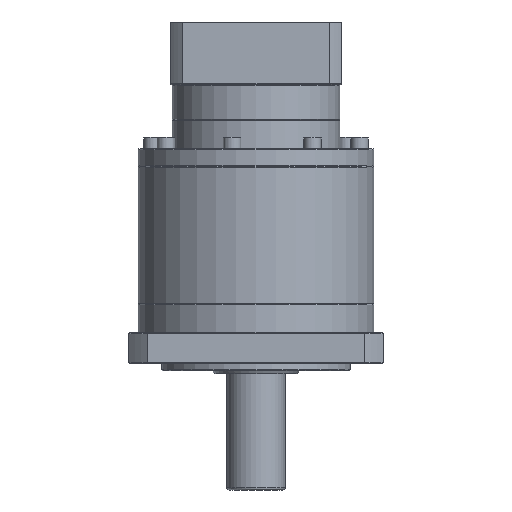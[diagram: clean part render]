
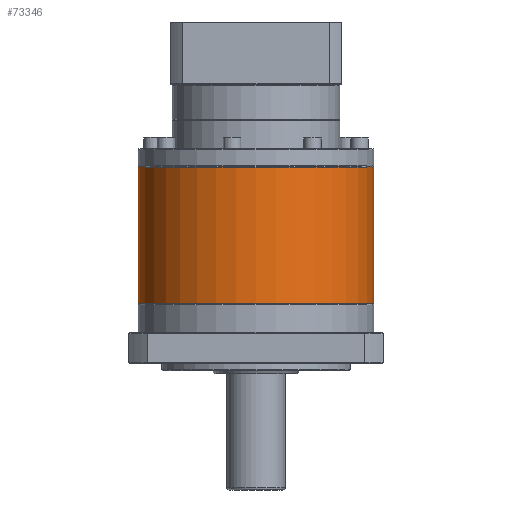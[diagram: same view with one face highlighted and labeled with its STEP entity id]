
A CAD part, front view. The second image highlights one B-rep face of the part: STEP entity #73346.
In plain terms, the highlighted cylindrical face has radius 81 mm (diameter 162 mm), a partial arc.
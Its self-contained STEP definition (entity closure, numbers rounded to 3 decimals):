
#2593 = EDGE_CURVE ( 'NONE', #17510, #5571, #34839, .T. ) ;
#5571 = VERTEX_POINT ( 'NONE', #86012 ) ;
#12732 = CARTESIAN_POINT ( 'NONE',  ( -36.886, 57.452, -88.94 ) ) ;
#12919 = VECTOR ( 'NONE', #52714, 1000. ) ;
#17510 = VERTEX_POINT ( 'NONE', #103160 ) ;
#18412 = ORIENTED_EDGE ( 'NONE', *, *, #48239, .T. ) ;
#22859 = ORIENTED_EDGE ( 'NONE', *, *, #38188, .F. ) ;
#28668 = VECTOR ( 'NONE', #33930, 1000. ) ;
#29323 = AXIS2_PLACEMENT_3D ( 'NONE', #78221, #53355, #101636 ) ;
#30748 = DIRECTION ( 'NONE',  ( -1., 0., 0. ) ) ;
#33930 = DIRECTION ( 'NONE',  ( 0., 0., -1. ) ) ;
#34285 = CARTESIAN_POINT ( 'NONE',  ( -36.886, 57.452, -88.44 ) ) ;
#34839 = LINE ( 'NONE', #36486, #12919 ) ;
#36486 = CARTESIAN_POINT ( 'NONE',  ( -198.886, 57.452, -88.44 ) ) ;
#36734 = CARTESIAN_POINT ( 'NONE',  ( -117.886, 57.452, -88.94 ) ) ;
#38118 = CYLINDRICAL_SURFACE ( 'NONE', #29323, 81. ) ;
#38188 = EDGE_CURVE ( 'NONE', #43387, #53882, #39024, .T. ) ;
#38915 = DIRECTION ( 'NONE',  ( 0., 0., -1. ) ) ;
#39024 = LINE ( 'NONE', #34285, #28668 ) ;
#41912 = FACE_OUTER_BOUND ( 'NONE', #64316, .T. ) ;
#42584 = EDGE_CURVE ( 'NONE', #43387, #17510, #62592, .T. ) ;
#43387 = VERTEX_POINT ( 'NONE', #12732 ) ;
#47264 = DIRECTION ( 'NONE',  ( 0., 0., 1. ) ) ;
#47518 = AXIS2_PLACEMENT_3D ( 'NONE', #95945, #47264, #30748 ) ;
#48239 = EDGE_CURVE ( 'NONE', #5571, #53882, #52329, .T. ) ;
#52329 = CIRCLE ( 'NONE', #47518, 81. ) ;
#52714 = DIRECTION ( 'NONE',  ( 0., 0., -1. ) ) ;
#53355 = DIRECTION ( 'NONE',  ( 0., 0., -1. ) ) ;
#53882 = VERTEX_POINT ( 'NONE', #82587 ) ;
#62592 = CIRCLE ( 'NONE', #89656, 81. ) ;
#64316 = EDGE_LOOP ( 'NONE', ( #22859, #90866, #80653, #18412 ) ) ;
#73346 = ADVANCED_FACE ( 'NONE', ( #41912 ), #38118, .T. ) ;
#78221 = CARTESIAN_POINT ( 'NONE',  ( -117.886, 57.452, -88.44 ) ) ;
#80653 = ORIENTED_EDGE ( 'NONE', *, *, #2593, .T. ) ;
#82587 = CARTESIAN_POINT ( 'NONE',  ( -36.886, 57.452, -182.44 ) ) ;
#86012 = CARTESIAN_POINT ( 'NONE',  ( -198.886, 57.452, -182.44 ) ) ;
#88586 = DIRECTION ( 'NONE',  ( -1., 0., 0. ) ) ;
#89656 = AXIS2_PLACEMENT_3D ( 'NONE', #36734, #38915, #88586 ) ;
#90866 = ORIENTED_EDGE ( 'NONE', *, *, #42584, .T. ) ;
#95945 = CARTESIAN_POINT ( 'NONE',  ( -117.886, 57.452, -182.44 ) ) ;
#101636 = DIRECTION ( 'NONE',  ( -1., 0., 0. ) ) ;
#103160 = CARTESIAN_POINT ( 'NONE',  ( -198.886, 57.452, -88.94 ) ) ;
